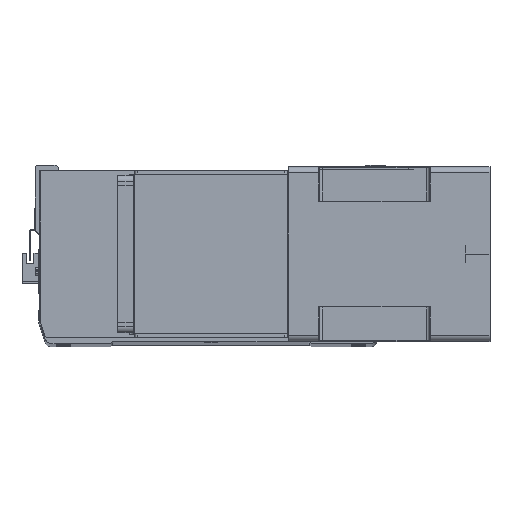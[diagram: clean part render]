
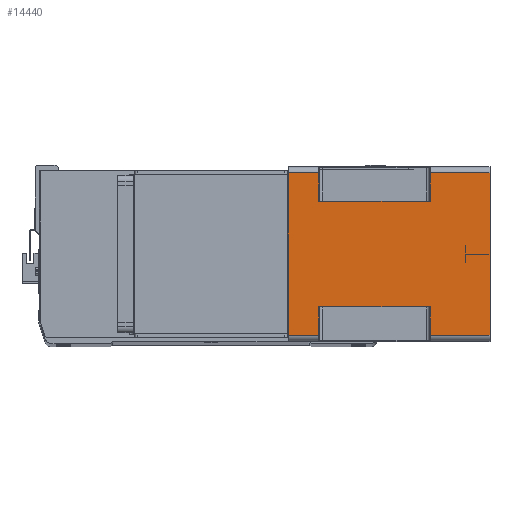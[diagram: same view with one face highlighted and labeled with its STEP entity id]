
A CAD part, top view. The second image highlights one B-rep face of the part: STEP entity #14440.
In plain terms, the highlighted planar face has unit normal (0, 0, 1) as drawn and (1, 0, 0) by its records, which use the part's own axes.
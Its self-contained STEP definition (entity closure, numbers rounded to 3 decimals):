
#69 = ORIENTED_EDGE ( 'NONE', *, *, #19428, .T. ) ;
#638 = VECTOR ( 'NONE', #3270, 1000. ) ;
#892 = LINE ( 'NONE', #30974, #25580 ) ;
#944 = LINE ( 'NONE', #2531, #9934 ) ;
#1213 = EDGE_CURVE ( 'NONE', #8651, #2593, #7982, .T. ) ;
#1233 = DIRECTION ( 'NONE',  ( 0., 1., 0. ) ) ;
#1380 = EDGE_CURVE ( 'NONE', #17593, #29053, #892, .T. ) ;
#1494 = CARTESIAN_POINT ( 'NONE',  ( 71., 43., -115.5 ) ) ;
#1711 = ORIENTED_EDGE ( 'NONE', *, *, #6697, .T. ) ;
#2042 = CARTESIAN_POINT ( 'NONE',  ( 71., 43., -115.5 ) ) ;
#2360 = VERTEX_POINT ( 'NONE', #14526 ) ;
#2474 = ORIENTED_EDGE ( 'NONE', *, *, #18133, .T. ) ;
#2531 = CARTESIAN_POINT ( 'NONE',  ( 71., -66., -164. ) ) ;
#2532 = CARTESIAN_POINT ( 'NONE',  ( 71., 66., -115.5 ) ) ;
#2593 = VERTEX_POINT ( 'NONE', #30014 ) ;
#2751 = ORIENTED_EDGE ( 'NONE', *, *, #29085, .F. ) ;
#2945 = CARTESIAN_POINT ( 'NONE',  ( 71., -66., -24.5 ) ) ;
#3270 = DIRECTION ( 'NONE',  ( 0., 0., 1. ) ) ;
#3326 = CARTESIAN_POINT ( 'NONE',  ( 71., -66., -164. ) ) ;
#3930 = EDGE_CURVE ( 'NONE', #17593, #19796, #5467, .T. ) ;
#4124 = VERTEX_POINT ( 'NONE', #2532 ) ;
#4224 = VECTOR ( 'NONE', #25661, 1000. ) ;
#4490 = LINE ( 'NONE', #1494, #28482 ) ;
#5467 = LINE ( 'NONE', #10930, #15191 ) ;
#6118 = DIRECTION ( 'NONE',  ( 0., -1., 0. ) ) ;
#6387 = LINE ( 'NONE', #3326, #9402 ) ;
#6697 = EDGE_CURVE ( 'NONE', #26151, #4124, #18001, .T. ) ;
#6767 = CARTESIAN_POINT ( 'NONE',  ( 71., -66., -24.5 ) ) ;
#6788 = EDGE_CURVE ( 'NONE', #20515, #8651, #30409, .T. ) ;
#7694 = EDGE_CURVE ( 'NONE', #2360, #19796, #7738, .T. ) ;
#7738 = LINE ( 'NONE', #22519, #638 ) ;
#7982 = LINE ( 'NONE', #11267, #21824 ) ;
#8280 = DIRECTION ( 'NONE',  ( 0., 1., 0. ) ) ;
#8651 = VERTEX_POINT ( 'NONE', #10962 ) ;
#8816 = AXIS2_PLACEMENT_3D ( 'NONE', #27397, #10836, #1233 ) ;
#9402 = VECTOR ( 'NONE', #12945, 1000. ) ;
#9739 = ORIENTED_EDGE ( 'NONE', *, *, #6788, .T. ) ;
#9934 = VECTOR ( 'NONE', #12248, 1000. ) ;
#10603 = LINE ( 'NONE', #23251, #4224 ) ;
#10836 = DIRECTION ( 'NONE',  ( 1., 0., 0. ) ) ;
#10902 = CARTESIAN_POINT ( 'NONE',  ( 71., -43., -24.5 ) ) ;
#10930 = CARTESIAN_POINT ( 'NONE',  ( 71., -66., -115.5 ) ) ;
#10962 = CARTESIAN_POINT ( 'NONE',  ( 71., 66., -24.5 ) ) ;
#11061 = ORIENTED_EDGE ( 'NONE', *, *, #17243, .F. ) ;
#11267 = CARTESIAN_POINT ( 'NONE',  ( 71., 66., -164. ) ) ;
#12248 = DIRECTION ( 'NONE',  ( 0., 0., 1. ) ) ;
#12572 = DIRECTION ( 'NONE',  ( 0., 1., 0. ) ) ;
#12821 = CARTESIAN_POINT ( 'NONE',  ( 71., -66., -115.5 ) ) ;
#12945 = DIRECTION ( 'NONE',  ( 0., 1., 0. ) ) ;
#13087 = CARTESIAN_POINT ( 'NONE',  ( 71., 43., -24.5 ) ) ;
#13236 = PLANE ( 'NONE',  #8816 ) ;
#13702 = LINE ( 'NONE', #10902, #23058 ) ;
#14440 = ADVANCED_FACE ( 'NONE', ( #28406 ), #13236, .T. ) ;
#14526 = CARTESIAN_POINT ( 'NONE',  ( 71., -66., -164. ) ) ;
#14970 = CARTESIAN_POINT ( 'NONE',  ( 71., -43., -24.5 ) ) ;
#15191 = VECTOR ( 'NONE', #6118, 1000. ) ;
#16483 = ORIENTED_EDGE ( 'NONE', *, *, #23321, .F. ) ;
#17243 = EDGE_CURVE ( 'NONE', #25049, #2593, #28572, .T. ) ;
#17593 = VERTEX_POINT ( 'NONE', #22689 ) ;
#18001 = LINE ( 'NONE', #26114, #18399 ) ;
#18133 = EDGE_CURVE ( 'NONE', #2360, #26151, #6387, .T. ) ;
#18202 = CARTESIAN_POINT ( 'NONE',  ( 71., -66., 0. ) ) ;
#18399 = VECTOR ( 'NONE', #23586, 1000. ) ;
#18414 = CARTESIAN_POINT ( 'NONE',  ( 71., 66., -164. ) ) ;
#18684 = EDGE_CURVE ( 'NONE', #4124, #30076, #4490, .T. ) ;
#19428 = EDGE_CURVE ( 'NONE', #21267, #29053, #13702, .T. ) ;
#19478 = EDGE_LOOP ( 'NONE', ( #22495, #28924, #27740, #2474, #1711, #29909, #16483, #9739, #20452, #11061, #2751, #69 ) ) ;
#19796 = VERTEX_POINT ( 'NONE', #12821 ) ;
#20452 = ORIENTED_EDGE ( 'NONE', *, *, #1213, .T. ) ;
#20515 = VERTEX_POINT ( 'NONE', #13087 ) ;
#20896 = DIRECTION ( 'NONE',  ( 0., 0., 1. ) ) ;
#21267 = VERTEX_POINT ( 'NONE', #6767 ) ;
#21824 = VECTOR ( 'NONE', #20896, 1000. ) ;
#22495 = ORIENTED_EDGE ( 'NONE', *, *, #1380, .F. ) ;
#22519 = CARTESIAN_POINT ( 'NONE',  ( 71., -66., -164. ) ) ;
#22689 = CARTESIAN_POINT ( 'NONE',  ( 71., -43., -115.5 ) ) ;
#23058 = VECTOR ( 'NONE', #8280, 1000. ) ;
#23251 = CARTESIAN_POINT ( 'NONE',  ( 71., 43., -164. ) ) ;
#23321 = EDGE_CURVE ( 'NONE', #20515, #30076, #10603, .T. ) ;
#23415 = DIRECTION ( 'NONE',  ( 0., 0., 1. ) ) ;
#23586 = DIRECTION ( 'NONE',  ( 0., 0., 1. ) ) ;
#24050 = VECTOR ( 'NONE', #12572, 1000. ) ;
#24501 = DIRECTION ( 'NONE',  ( 0., 1., 0. ) ) ;
#25049 = VERTEX_POINT ( 'NONE', #18202 ) ;
#25423 = DIRECTION ( 'NONE',  ( 0., -1., 0. ) ) ;
#25580 = VECTOR ( 'NONE', #23415, 1000. ) ;
#25661 = DIRECTION ( 'NONE',  ( 0., 0., -1. ) ) ;
#26114 = CARTESIAN_POINT ( 'NONE',  ( 71., 66., -164. ) ) ;
#26151 = VERTEX_POINT ( 'NONE', #18414 ) ;
#27397 = CARTESIAN_POINT ( 'NONE',  ( 71., -66., -164. ) ) ;
#27740 = ORIENTED_EDGE ( 'NONE', *, *, #7694, .F. ) ;
#28406 = FACE_OUTER_BOUND ( 'NONE', #19478, .T. ) ;
#28482 = VECTOR ( 'NONE', #25423, 1000. ) ;
#28572 = LINE ( 'NONE', #29225, #28962 ) ;
#28924 = ORIENTED_EDGE ( 'NONE', *, *, #3930, .T. ) ;
#28962 = VECTOR ( 'NONE', #24501, 1000. ) ;
#29053 = VERTEX_POINT ( 'NONE', #14970 ) ;
#29085 = EDGE_CURVE ( 'NONE', #21267, #25049, #944, .T. ) ;
#29225 = CARTESIAN_POINT ( 'NONE',  ( 71., -66., 0. ) ) ;
#29909 = ORIENTED_EDGE ( 'NONE', *, *, #18684, .T. ) ;
#30014 = CARTESIAN_POINT ( 'NONE',  ( 71., 66., 0. ) ) ;
#30076 = VERTEX_POINT ( 'NONE', #2042 ) ;
#30409 = LINE ( 'NONE', #2945, #24050 ) ;
#30974 = CARTESIAN_POINT ( 'NONE',  ( 71., -43., -164. ) ) ;
